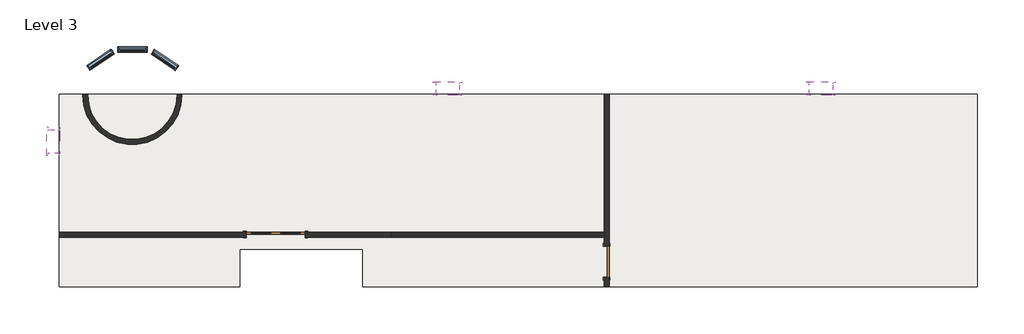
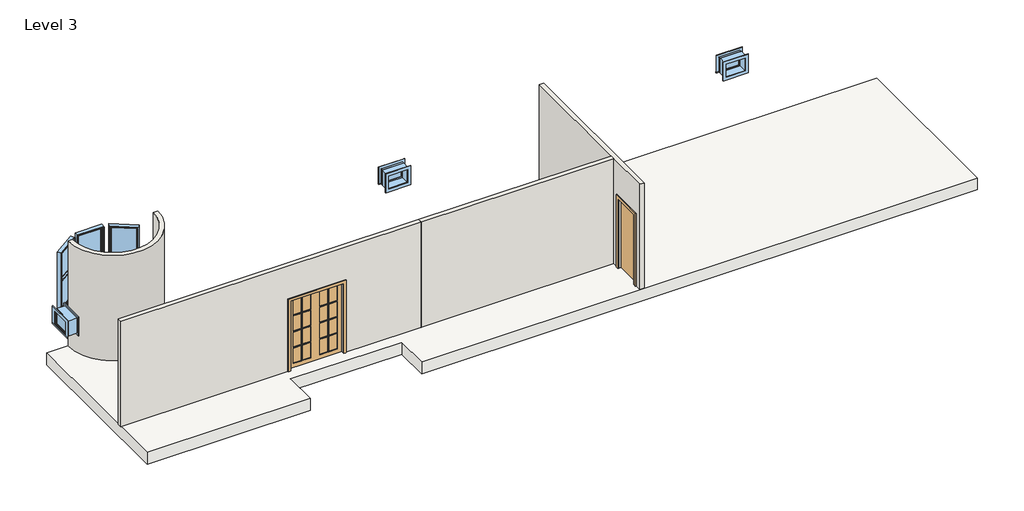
# One storey, incomplete: 6 windows, 4 walls, 2 doors, 1 slab.
"""IFC4 building model written with IfcOpenShell, lengths in millimetres."""

from ifc_helpers import new_model, si_unit, point, frame, frame_2d, origin, place, context, project, spatial, polyline, circle_curve, trimmed, segment, composite_curve, outline, extrude, faceted_brep, transform, mapped, element, save
from components import door_341c2aa2, door_a75b9756, window_288415e7, window_0ba6dfd4

model = new_model("IFC4")

# Units and contexts
model_context = context("Model", 3, world=origin())
ifc_project = project(units=[si_unit("LENGTHUNIT", "METRE", prefix="MILLI")], contexts=[model_context])

# Site, building, storey
site = spatial("IfcSite", under=ifc_project)
building = spatial("IfcBuilding", under=site)
storey = spatial("IfcBuildingStorey", under=building, Name="Level 3", Elevation=7010.4)

# Doors
placement = place(None, origin())
door_shape = door_341c2aa2(model_context)
element("IfcDoor", 1, ObjectType="DOOR- : 60\" x 84\"", at=placement, inside=storey, context=model_context, shape_type="MappedRepresentation", body=[
    mapped(door_shape, transform((-14387.7103346, -436.5793798, 7010.4), x_axis=(1.0, 0.0, 0.0), y_axis=(0.0, 1.0, 0.0), z_axis=(0.0, 0.0, 1.0))),
])
door_2_shape = door_a75b9756(model_context)
element("IfcDoor", 2, ObjectType="DOOR-Single-Flush : 32\" x 84\"", at=placement, inside=storey, context=model_context, shape_type="MappedRepresentation", body=[
    mapped(door_2_shape, transform((-5789.7535292, -1144.5564015, 7010.4), x_axis=(0.0, -1.0, 0.0), y_axis=(1.0, 0.0, 0.0), z_axis=(0.0, 0.0, 1.0))),
])

# Slab
element("IfcSlab", 3, ObjectType="1501 Joist floor", at=placement, inside=storey, context=model_context, shape_type="SweptSolid", body=[
    extrude(outline(polyline([(3849.5464708, 3205.1935985), (3849.5464708, -1798.6064015), (-12127.0535292, -1798.6064015), (-12127.0535292, -820.7064015), (-15327.4535292, -820.7064015), (-15327.4535292, -1798.6064015), (-20013.7535292, -1798.6064015), (-20013.7535292, 3205.1935985), (3849.5464708, 3205.1935985)])), frame((0.0, 0.0, 6648.45), z_axis=(0.0, 0.0, 1.0), x_axis=(1.0, 0.0, 0.0)), (0.0, 0.0, 1.0), 361.95),
])

# Walls
element("IfcWall", 4, ObjectType="Generic - 5\"", at=placement, inside=storey, context=model_context, shape_type="Brep", body=[
    faceted_brep([(-5853.2535292, -1550.9564015, 9144.0), (-5853.2535292, -1550.9564015, 7010.4), (-5853.2535292, -1798.6064015, 7010.4), (-5853.2535292, -1798.6064015, 10210.8), (-5853.2535292, -500.0793798, 10210.8), (-5853.2535292, -373.0793798, 10210.8), (-5853.2535292, 3205.1935985, 10210.8), (-5853.2535292, 3205.1935985, 7010.4), (-5853.2535292, -373.0793798, 7010.4), (-5853.2535292, -500.0793798, 7010.4), (-5853.2535292, -738.1564015, 7010.4), (-5853.2535292, -738.1564015, 9144.0), (-5726.2535292, -1798.6064015, 7010.4), (-5726.2535292, -1550.9564015, 7010.4), (-5726.2535292, -1550.9564015, 9144.0), (-5726.2535292, -738.1564015, 9144.0), (-5726.2535292, -738.1564015, 7010.4), (-5726.2535292, 3205.1935985, 7010.4), (-5726.2535292, 3205.1935985, 10210.8), (-5726.2535292, -1798.6064015, 10210.8)], [[[0, 1, 2, 3, 4, 5, 6, 7, 8, 9, 10, 11]], [[12, 13, 14, 15, 16, 17, 18, 19]], [[2, 1, 13, 12]], [[10, 9, 8, 7, 17, 16]], [[6, 5, 4, 3, 19, 18]], [[7, 6, 18, 17]], [[3, 2, 12, 19]], [[14, 13, 1, 0]], [[15, 14, 0, 11]], [[16, 15, 11, 10]]]),
])
element("IfcWall", 5, ObjectType="Generic - 5\"", at=placement, inside=storey, context=model_context, shape_type="SweptSolid", body=[
    extrude(outline(polyline([(10210.8, -11391.3478232), (10210.8, -20013.7535292), (7010.4, -20013.7535292), (7010.4, -15149.7103346), (9144.0, -15149.7103346), (9144.0, -13625.7103346), (7010.4, -13625.7103346), (7010.4, -11391.3478232), (10210.8, -11391.3478232)])), frame((0.0, -500.0793798, 0.0), z_axis=(0.0, 1.0, 0.0), x_axis=(0.0, 0.0, 1.0)), (0.0, 0.0, 1.0), 127.0),
])
element("IfcWall", 6, ObjectType="Generic - 5\"", at=placement, inside=storey, context=model_context, shape_type="SweptSolid", body=[
    extrude(outline(polyline([(-5853.2535292, -500.0793798), (-11391.3478232, -500.0793798), (-11391.3478232, -373.0793798), (-5853.2535292, -373.0793798), (-5853.2535292, -500.0793798)])), frame((0.0, 0.0, 7010.4), z_axis=(0.0, 0.0, 1.0), x_axis=(1.0, 0.0, 0.0)), (0.0, 0.0, 1.0), 3200.4),
])
element("IfcWall", 7, ObjectType="Generic - 5\"", at=placement, inside=storey, context=model_context, shape_type="SweptSolid", body=[
    extrude(outline(composite_curve([segment(polyline([(-16953.030434, 3192.4935985), (-16826.030434, 3192.4935985)]), True, "CONTINUOUS"), segment(trimmed(circle_curve(frame_2d((-18115.080434, 3192.4935985)), 1289.05), [point((-16826.030434, 3192.4935985))], [point((-19404.130434, 3192.4935985))], False, "CARTESIAN"), True, "CONTINUOUS"), segment(polyline([(-19404.130434, 3192.4935985), (-19277.130434, 3192.4935985)]), True, "CONTINUOUS"), segment(trimmed(circle_curve(frame_2d((-18115.080434, 3192.4935985)), 1162.05), [point((-19277.130434, 3192.4935985))], [point((-16953.030434, 3192.4935985))], True, "CARTESIAN"), True, "CONTINUOUS")], self_intersect=False)), frame((0.0, 0.0, 7010.4), z_axis=(0.0, 0.0, 1.0), x_axis=(1.0, 0.0, 0.0)), (0.0, 0.0, 1.0), 3200.4),
])

# Windows
window_shape = window_288415e7(model_context)
element("IfcWindow", 8, ObjectType="Double Hung : 2' 6\" x 5' 9\" Typical Window", at=placement, inside=storey, context=model_context, shape_type="MappedRepresentation", body=[
    mapped(window_shape, transform((-18935.8659926, 4096.1742104, 7016.75), x_axis=(0.8290375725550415, 0.5591929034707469, 0.0), y_axis=(-0.5591929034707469, 0.8290375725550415, 0.0), z_axis=(0.0, 0.0, 1.0))),
])
element("IfcWindow", 9, ObjectType="Double Hung : 2' 6\" x 5' 9\" Typical Window", at=placement, inside=storey, context=model_context, shape_type="MappedRepresentation", body=[
    mapped(window_shape, transform((-18108.7207329, 4360.8935985, 7016.75), x_axis=(1.0, 0.0, 0.0), y_axis=(0.0, 1.0, 0.0), z_axis=(0.0, 0.0, 1.0))),
])
element("IfcWindow", 10, ObjectType="Double Hung : 2' 6\" x 5' 9\" Typical Window", at=placement, inside=storey, context=model_context, shape_type="MappedRepresentation", body=[
    mapped(window_shape, transform((-17274.8357302, 4091.6151094, 7016.75), x_axis=(0.8290375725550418, -0.5591929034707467, 0.0), y_axis=(0.5591929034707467, 0.8290375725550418, 0.0), z_axis=(0.0, 0.0, 1.0))),
])
window_2_shape = window_0ba6dfd4(model_context)
element("IfcWindow", 11, ObjectType="Transom with Trim : 24\" x 18\"", at=placement, inside=storey, context=model_context, shape_type="MappedRepresentation", body=[
    mapped(window_2_shape, transform((-176.3535292, 3357.5935985, 6375.4), x_axis=(1.0, 0.0, 0.0), y_axis=(0.0, 1.0, 0.0), z_axis=(0.0, 0.0, 1.0))),
])
element("IfcWindow", 12, ObjectType="Transom with Trim : 24\" x 18\"", at=placement, inside=storey, context=model_context, shape_type="MappedRepresentation", body=[
    mapped(window_2_shape, transform((-9879.1535292, 3357.5935985, 6375.4), x_axis=(1.0, 0.0, 0.0), y_axis=(0.0, 1.0, 0.0), z_axis=(0.0, 0.0, 1.0))),
])
element("IfcWindow", 13, ObjectType="Transom with Trim : 24\" x 18\"", at=placement, inside=storey, context=model_context, shape_type="MappedRepresentation", body=[
    mapped(window_2_shape, transform((-20166.1535292, 2024.0935985, 6375.4), x_axis=(0.0, 1.0, 0.0), y_axis=(-1.0, 0.0, 0.0), z_axis=(0.0, 0.0, 1.0))),
])

save(model, "model.ifc")
